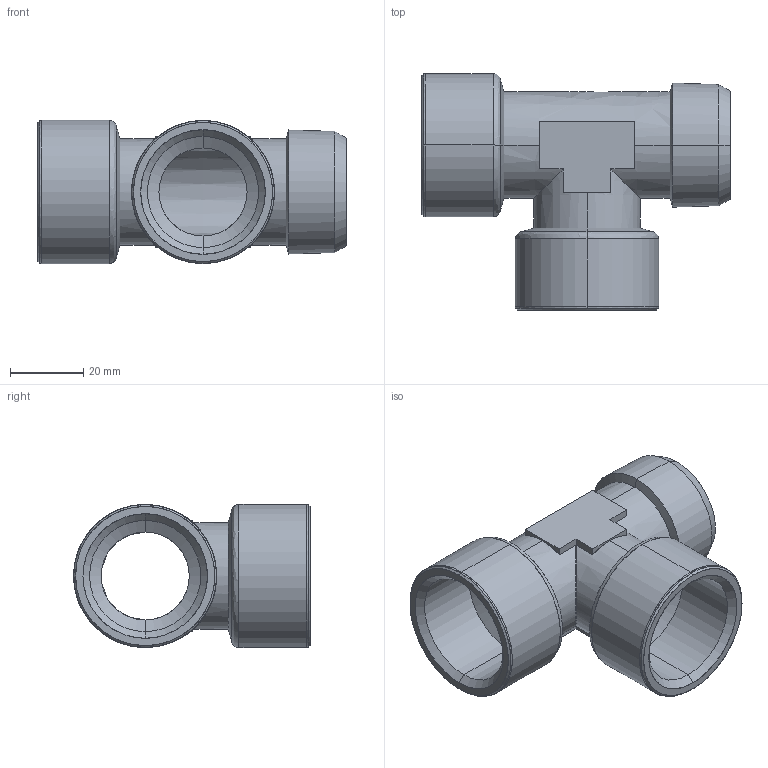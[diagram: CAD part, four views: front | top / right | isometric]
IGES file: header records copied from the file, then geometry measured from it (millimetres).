
Start section: SolidWorks IGES file using analytic representation for surfaces
Global section: file name: K:\Disegni Esecutivi\Accessori\4050\0405000010900A.IGS; native system: SolidWorks 2007; preprocessor: SolidWorks 2007; author: cad02; date: 071024.171455; units: millimetre
Bounding box: 84 x 64.5 x 39 mm (x, y, z)
Surface area: 23382.3 mm2 (no closed solid volume)
Topology: 0 solids, 0 shells, 75 faces, 852 edges, 852 vertices
Faces by surface type: revolution 46, bspline 29
